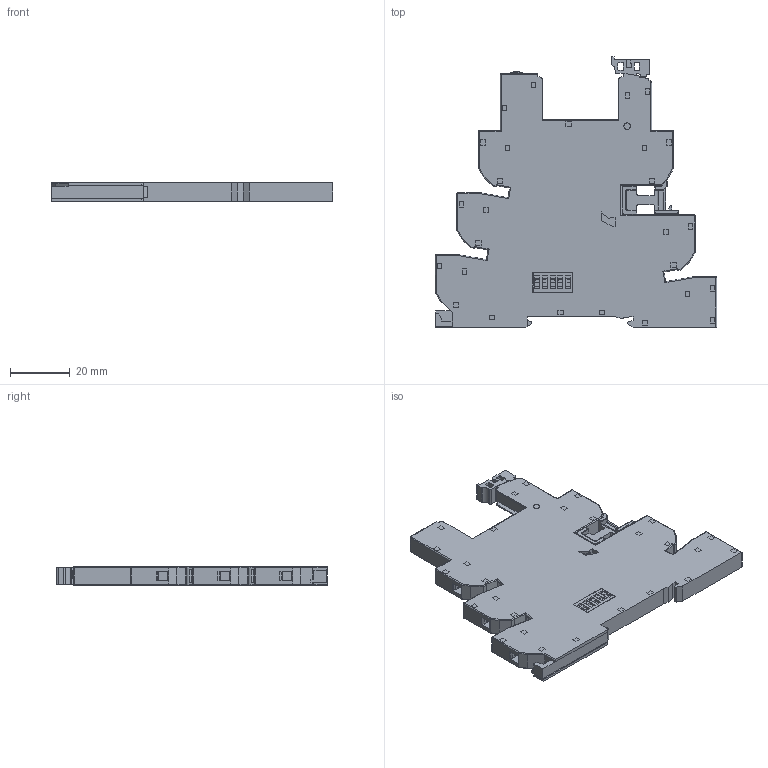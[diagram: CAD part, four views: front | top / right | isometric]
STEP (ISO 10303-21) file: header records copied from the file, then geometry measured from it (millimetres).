
FILE_DESCRIPTION(('STEP AP214'),'2;1');
FILE_NAME('9368_esistente FINITO.stp','2011-02-02T08:27:33',(''),(''),'2007.1.106','THINKDESIGN','');
FILE_SCHEMA(('AUTOMOTIVE_DESIGN'));
Products named in the file (1): None
Bounding box: 94.25 x 90.7 x 6.2 mm (x, y, z)
Surface area: 17646 mm2 (no closed solid volume)
Topology: 0 solids, 0 shells, 1121 faces, 6448 edges, 6434 vertices
Faces by surface type: plane 870, cylinder 221, bspline 30
Full cylindrical faces by diameter (mm): 1.5 x6, 2.2 x2, 2.798 x6, 3.9 x6, 4.299 x6
Entity records: 63968 total; most frequent: CARTESIAN_POINT 16639, DIRECTION 8415, COMPOSITE_CURVE_SEGMENT 6432, TRIMMED_CURVE 5883, VECTOR 5533, LINE 5533, AXIS2_PLACEMENT_3D 1441, STYLED_ITEM 1122
